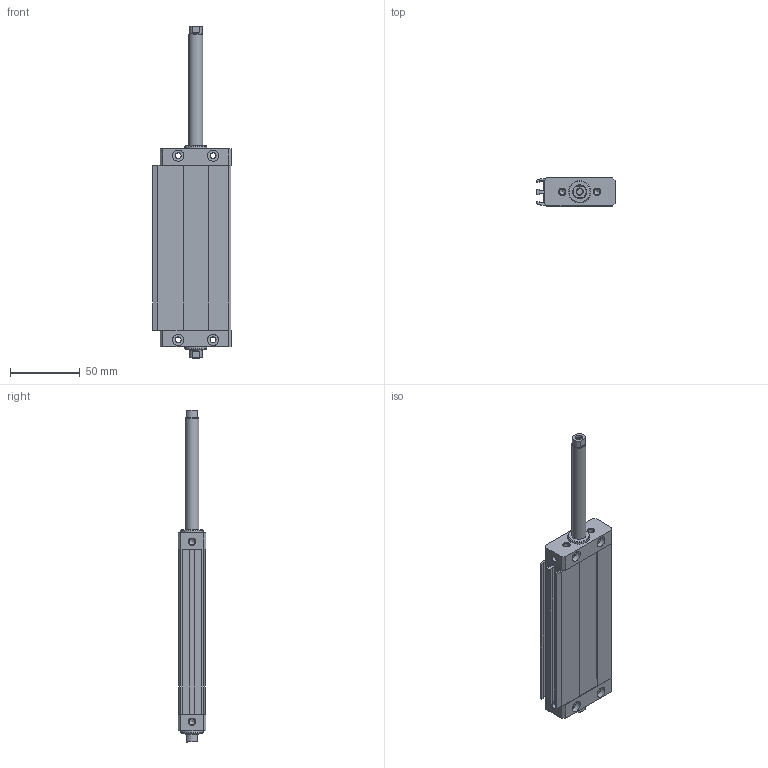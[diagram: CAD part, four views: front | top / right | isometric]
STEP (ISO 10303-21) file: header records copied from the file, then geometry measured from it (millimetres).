
FILE_DESCRIPTION((''),'2;1');
FILE_NAME('I:\Area Tecnica\Disegni\VARIE-3D\Componenti\1370 - CPO\1370_##_0000_03\1370_25_0080_03-01.iam.step','2010-12-16T10:52:55',(''),(''),'Autodesk Inventor 2011','Autodesk Inventor 2011','');
FILE_SCHEMA(('AUTOMOTIVE_DESIGN { 1 0 10303 214 1 1 1 1 }'));
Length unit declared in the file: millimetre
Products named in the file (5): 1370_25_0080_03-01; 1370_05_25_0000; 1370_06_25_0080; 1370_08_25_0000; 1370_3_25_0080
Assembly tree (4 placements, depth 2):
  1370_25_0080_03-01
    1370_05_25_0000
    1370_06_25_0080
    1370_08_25_0000
    1370_3_25_0080
Bounding box: 56.25 x 20 x 238 mm (x, y, z)
Volume: 110469.8 mm3; surface area: 54813.5 mm2
Topology: 4 solids, 4 shells, 158 faces, 378 edges, 238 vertices
Faces by surface type: plane 90, cylinder 48, cone 20
Full cylindrical faces by diameter (mm): 4.2 x22, 5.2 x2, 8 x8, 9.5 x2, 10 x4, 16 x2
Entity records: 4480 total; most frequent: DIRECTION 750, CARTESIAN_POINT 695, ORIENTED_EDGE 608, EDGE_CURVE 304, AXIS2_PLACEMENT_3D 279, EDGE_LOOP 250, VERTEX_POINT 224, VECTOR 192
